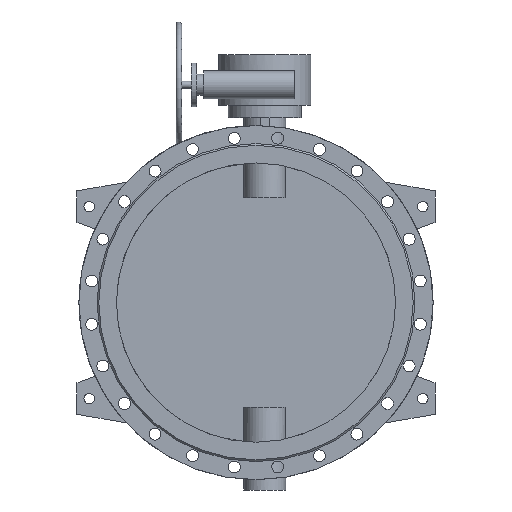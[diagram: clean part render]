
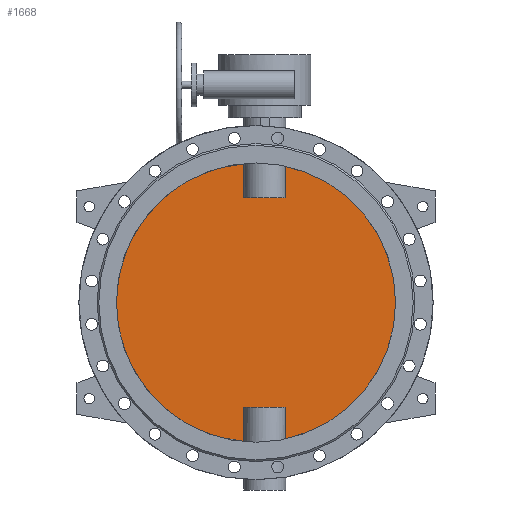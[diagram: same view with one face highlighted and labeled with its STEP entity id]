
A CAD part, front view. The second image highlights one B-rep face of the part: STEP entity #1668.
In plain terms, the highlighted planar face has unit normal (0, -1, 0).
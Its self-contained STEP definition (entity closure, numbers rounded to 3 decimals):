
#1668=ADVANCED_FACE('',(#3510),#3512,.F.);
#3510=FACE_BOUND('',#3511,.T.);
#3511=EDGE_LOOP('',(#4494,#4495,#4496,#4497,#4498,#4499,#4500,#4501));
#3512=PLANE('',#3513);
#3513=AXIS2_PLACEMENT_3D('',#3514,#3515,#3516);
#3514=CARTESIAN_POINT('',(0.,-5.,0.));
#3515=DIRECTION('',(0.,1.,0.));
#3516=DIRECTION('',(1.,0.,0.));
#4494=ORIENTED_EDGE('',*,*,#4954,.T.);
#4495=ORIENTED_EDGE('',*,*,#4966,.T.);
#4496=ORIENTED_EDGE('',*,*,#4967,.T.);
#4497=ORIENTED_EDGE('',*,*,#4968,.T.);
#4498=ORIENTED_EDGE('',*,*,#4956,.T.);
#4499=ORIENTED_EDGE('',*,*,#4969,.T.);
#4500=ORIENTED_EDGE('',*,*,#4970,.T.);
#4501=ORIENTED_EDGE('',*,*,#4971,.T.);
#4954=EDGE_CURVE('',#5728,#5729,#5730,.F.);
#4956=EDGE_CURVE('',#5733,#5731,#5734,.F.);
#4966=EDGE_CURVE('',#5729,#5748,#5749,.T.);
#4967=EDGE_CURVE('',#5748,#5750,#5751,.F.);
#4968=EDGE_CURVE('',#5750,#5733,#5752,.F.);
#4969=EDGE_CURVE('',#5731,#5753,#5754,.F.);
#4970=EDGE_CURVE('',#5753,#5755,#5756,.F.);
#4971=EDGE_CURVE('',#5755,#5728,#5757,.T.);
#5728=VERTEX_POINT('',#10610);
#5729=VERTEX_POINT('',#10611);
#5730=CIRCLE('',#10612,400.);
#5731=VERTEX_POINT('',#10616);
#5733=VERTEX_POINT('',#10723);
#5734=CIRCLE('',#10724,400.);
#5748=VERTEX_POINT('',#10867);
#5749=LINE('',#10868,#10869);
#5750=VERTEX_POINT('',#10871);
#5751=LINE('',#10872,#10873);
#5752=LINE('',#10875,#10876);
#5753=VERTEX_POINT('',#10878);
#5754=LINE('',#10879,#10880);
#5755=VERTEX_POINT('',#10882);
#5756=LINE('',#10883,#10884);
#5757=LINE('',#10886,#10887);
#10610=CARTESIAN_POINT('',(84.791,-5.,-390.91));
#10611=CARTESIAN_POINT('',(84.791,-5.,390.91));
#10612=AXIS2_PLACEMENT_3D('',#10613,#10614,#10615);
#10613=CARTESIAN_POINT('',(0.,-5.,0.));
#10614=DIRECTION('',(0.,1.,0.));
#10615=DIRECTION('',(0.212,0.,0.977));
#10616=CARTESIAN_POINT('',(-34.791,-5.,-398.484));
#10723=CARTESIAN_POINT('',(-34.791,-5.,398.484));
#10724=AXIS2_PLACEMENT_3D('',#10725,#10726,#10727);
#10725=CARTESIAN_POINT('',(0.,-5.,0.));
#10726=DIRECTION('',(0.,1.,0.));
#10727=DIRECTION('',(-0.087,0.,-0.996));
#10867=CARTESIAN_POINT('',(84.791,-5.,300.));
#10868=CARTESIAN_POINT('',(84.791,-5.,390.91));
#10869=VECTOR('',#10870,1.);
#10870=DIRECTION('',(0.,0.,-1.));
#10871=CARTESIAN_POINT('',(-34.791,-5.,300.));
#10872=CARTESIAN_POINT('',(-34.791,-5.,300.));
#10873=VECTOR('',#10874,1.);
#10874=DIRECTION('',(1.,0.,0.));
#10875=CARTESIAN_POINT('',(-34.791,-5.,398.484));
#10876=VECTOR('',#10877,1.);
#10877=DIRECTION('',(0.,0.,-1.));
#10878=CARTESIAN_POINT('',(-34.791,-5.,-300.));
#10879=CARTESIAN_POINT('',(-34.791,-5.,-300.));
#10880=VECTOR('',#10881,1.);
#10881=DIRECTION('',(0.,0.,-1.));
#10882=CARTESIAN_POINT('',(84.791,-5.,-300.));
#10883=CARTESIAN_POINT('',(84.791,-5.,-300.));
#10884=VECTOR('',#10885,1.);
#10885=DIRECTION('',(-1.,0.,0.));
#10886=CARTESIAN_POINT('',(84.791,-5.,-300.));
#10887=VECTOR('',#10888,1.);
#10888=DIRECTION('',(0.,0.,-1.));
